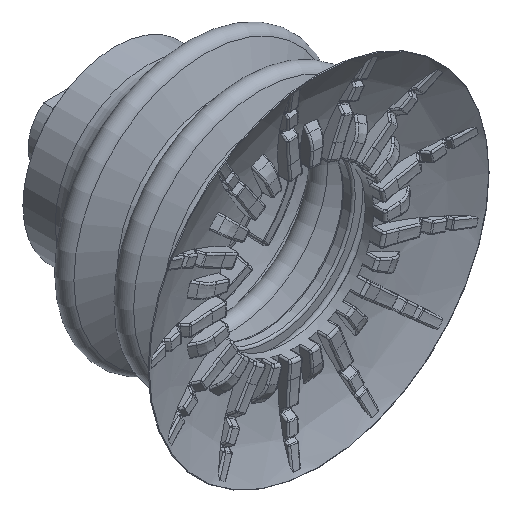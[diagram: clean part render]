
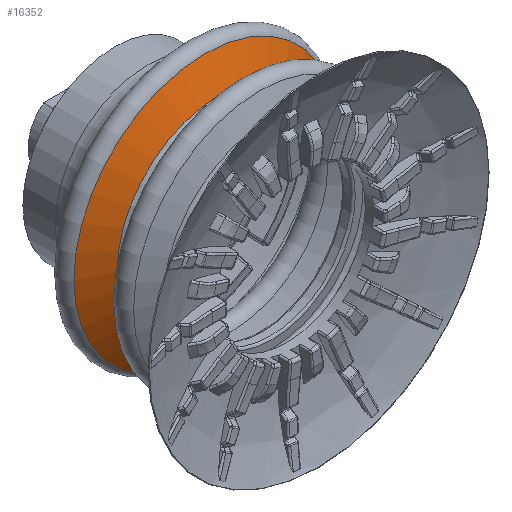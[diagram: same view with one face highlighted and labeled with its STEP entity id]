
A CAD part, isometric view. The second image highlights one B-rep face of the part: STEP entity #16352.
In plain terms, the highlighted conical face has half-angle 64.453 degrees and reference radius 19.4 mm.
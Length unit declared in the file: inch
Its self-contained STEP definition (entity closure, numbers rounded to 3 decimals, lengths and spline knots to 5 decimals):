
#244 = EDGE_LOOP ( 'NONE', ( #66307 ) ) ;
#3176 = DIRECTION ( 'NONE',  ( 1., 0., 0. ) ) ;
#3735 = FACE_BOUND ( 'NONE', #30928, .T. ) ;
#4694 = DIRECTION ( 'NONE',  ( 1., 0., 0. ) ) ;
#8829 = DIRECTION ( 'NONE',  ( 0., 0., 1. ) ) ;
#14918 = EDGE_CURVE ( 'NONE', #55779, #55779, #52874, .T. ) ;
#16352 = ADVANCED_FACE ( 'NONE', ( #3735, #24990 ), #30842, .T. ) ;
#24990 = FACE_OUTER_BOUND ( 'NONE', #244, .T. ) ;
#25355 = CARTESIAN_POINT ( 'NONE',  ( 0., 0., -0.78208 ) ) ;
#28393 = ORIENTED_EDGE ( 'NONE', *, *, #28443, .T. ) ;
#28443 = EDGE_CURVE ( 'NONE', #60165, #60165, #37168, .T. ) ;
#30842 = CONICAL_SURFACE ( 'NONE', #71675, 0.76376, 1.125 ) ;
#30928 = EDGE_LOOP ( 'NONE', ( #28393 ) ) ;
#37168 = CIRCLE ( 'NONE', #45317, 0.76376 ) ;
#38632 = CARTESIAN_POINT ( 'NONE',  ( 0.76376, 0., -0.78208 ) ) ;
#42669 = DIRECTION ( 'NONE',  ( 0., 0., 1. ) ) ;
#44735 = AXIS2_PLACEMENT_3D ( 'NONE', #69706, #42669, #3176 ) ;
#45317 = AXIS2_PLACEMENT_3D ( 'NONE', #59149, #54768, #4694 ) ;
#47980 = DIRECTION ( 'NONE',  ( 1., 0., 0. ) ) ;
#49212 = CARTESIAN_POINT ( 'NONE',  ( 0.9833, 0., -0.67714 ) ) ;
#52874 = CIRCLE ( 'NONE', #44735, 0.9833 ) ;
#54768 = DIRECTION ( 'NONE',  ( 0., 0., 1. ) ) ;
#55779 = VERTEX_POINT ( 'NONE', #49212 ) ;
#59149 = CARTESIAN_POINT ( 'NONE',  ( 0., 0., -0.78208 ) ) ;
#60165 = VERTEX_POINT ( 'NONE', #38632 ) ;
#66307 = ORIENTED_EDGE ( 'NONE', *, *, #14918, .F. ) ;
#69706 = CARTESIAN_POINT ( 'NONE',  ( 0., 0., -0.67714 ) ) ;
#71675 = AXIS2_PLACEMENT_3D ( 'NONE', #25355, #8829, #47980 ) ;
